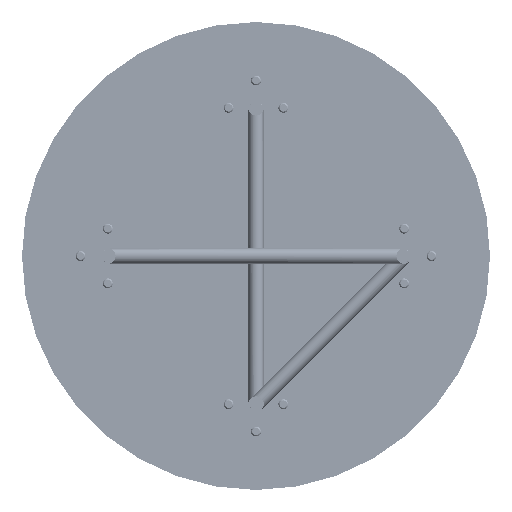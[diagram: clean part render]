
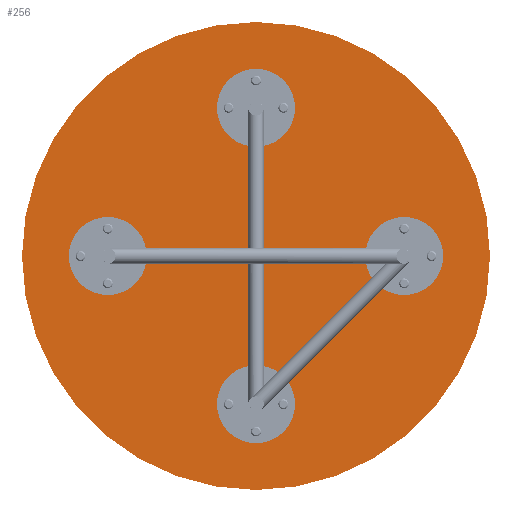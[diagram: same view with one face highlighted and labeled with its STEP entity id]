
A CAD part, front view. The second image highlights one B-rep face of the part: STEP entity #256.
In plain terms, the highlighted planar face has unit normal (0, -1, 0).
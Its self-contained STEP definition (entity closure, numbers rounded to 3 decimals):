
#98 = VERTEX_POINT ( 'NONE', #5888 ) ;
#256 = ADVANCED_FACE ( 'NONE', ( #855, #1403, #2470, #8103, #13720 ), #1129, .F. ) ;
#412 = VERTEX_POINT ( 'NONE', #3896 ) ;
#762 = AXIS2_PLACEMENT_3D ( 'NONE', #10401, #12022, #10760 ) ;
#855 = FACE_BOUND ( 'NONE', #6755, .T. ) ;
#1115 = AXIS2_PLACEMENT_3D ( 'NONE', #11752, #13376, #3646 ) ;
#1129 = PLANE ( 'NONE',  #15644 ) ;
#1209 = ORIENTED_EDGE ( 'NONE', *, *, #1442, .F. ) ;
#1403 = FACE_BOUND ( 'NONE', #9851, .T. ) ;
#1442 = EDGE_CURVE ( 'NONE', #412, #4291, #9403, .T. ) ;
#1542 = DIRECTION ( 'NONE',  ( 0., 0., -1. ) ) ;
#1710 = AXIS2_PLACEMENT_3D ( 'NONE', #13770, #8585, #1542 ) ;
#2275 = DIRECTION ( 'NONE',  ( 0., 1., 0. ) ) ;
#2470 = FACE_BOUND ( 'NONE', #14327, .T. ) ;
#2577 = CARTESIAN_POINT ( 'NONE',  ( 0., 0., 0. ) ) ;
#2609 = CARTESIAN_POINT ( 'NONE',  ( 190., 0., -50. ) ) ;
#2639 = DIRECTION ( 'NONE',  ( 0., 0., -1. ) ) ;
#2659 = CARTESIAN_POINT ( 'NONE',  ( -190., 0., 50. ) ) ;
#2670 = CARTESIAN_POINT ( 'NONE',  ( 0., 0., -190. ) ) ;
#2851 = DIRECTION ( 'NONE',  ( 0., 1., 0. ) ) ;
#3026 = CARTESIAN_POINT ( 'NONE',  ( 0., 0., 0. ) ) ;
#3137 = AXIS2_PLACEMENT_3D ( 'NONE', #2670, #8120, #13558 ) ;
#3508 = VERTEX_POINT ( 'NONE', #2609 ) ;
#3646 = DIRECTION ( 'NONE',  ( 0., 0., -1. ) ) ;
#3896 = CARTESIAN_POINT ( 'NONE',  ( 0., 0., 140. ) ) ;
#4127 = ORIENTED_EDGE ( 'NONE', *, *, #12739, .F. ) ;
#4268 = DIRECTION ( 'NONE',  ( 0., 0., -1. ) ) ;
#4291 = VERTEX_POINT ( 'NONE', #5734 ) ;
#4433 = EDGE_CURVE ( 'NONE', #4291, #412, #4972, .T. ) ;
#4719 = EDGE_CURVE ( 'NONE', #5159, #4963, #14522, .T. ) ;
#4901 = CIRCLE ( 'NONE', #15729, 300. ) ;
#4963 = VERTEX_POINT ( 'NONE', #16902 ) ;
#4972 = CIRCLE ( 'NONE', #1115, 50. ) ;
#5139 = ORIENTED_EDGE ( 'NONE', *, *, #4433, .F. ) ;
#5159 = VERTEX_POINT ( 'NONE', #9221 ) ;
#5544 = ORIENTED_EDGE ( 'NONE', *, *, #15014, .F. ) ;
#5592 = DIRECTION ( 'NONE',  ( 0., -1., 0. ) ) ;
#5734 = CARTESIAN_POINT ( 'NONE',  ( 0., 0., 240. ) ) ;
#5888 = CARTESIAN_POINT ( 'NONE',  ( 190., 0., 50. ) ) ;
#6081 = EDGE_CURVE ( 'NONE', #9540, #11415, #4901, .T. ) ;
#6204 = AXIS2_PLACEMENT_3D ( 'NONE', #10927, #5592, #2639 ) ;
#6256 = DIRECTION ( 'NONE',  ( 0., -1., 0. ) ) ;
#6437 = CIRCLE ( 'NONE', #11544, 300. ) ;
#6574 = CARTESIAN_POINT ( 'NONE',  ( -190., 0., -50. ) ) ;
#6755 = EDGE_LOOP ( 'NONE', ( #17295, #5544 ) ) ;
#7411 = EDGE_CURVE ( 'NONE', #11415, #9540, #6437, .T. ) ;
#7613 = CIRCLE ( 'NONE', #6204, 50. ) ;
#7802 = DIRECTION ( 'NONE',  ( 0., -1., 0. ) ) ;
#7923 = DIRECTION ( 'NONE',  ( 0., 0., 1. ) ) ;
#7942 = AXIS2_PLACEMENT_3D ( 'NONE', #14588, #7802, #11908 ) ;
#8103 = FACE_BOUND ( 'NONE', #17006, .T. ) ;
#8120 = DIRECTION ( 'NONE',  ( 0., -1., 0. ) ) ;
#8196 = DIRECTION ( 'NONE',  ( 0., -1., 0. ) ) ;
#8585 = DIRECTION ( 'NONE',  ( 0., -1., 0. ) ) ;
#9221 = CARTESIAN_POINT ( 'NONE',  ( 0., 0., -240. ) ) ;
#9403 = CIRCLE ( 'NONE', #1710, 50. ) ;
#9529 = CARTESIAN_POINT ( 'NONE',  ( -190., 0., 0. ) ) ;
#9540 = VERTEX_POINT ( 'NONE', #16236 ) ;
#9851 = EDGE_LOOP ( 'NONE', ( #14418, #12176 ) ) ;
#10148 = AXIS2_PLACEMENT_3D ( 'NONE', #14455, #6256, #17043 ) ;
#10401 = CARTESIAN_POINT ( 'NONE',  ( 0., 0., -190. ) ) ;
#10440 = CIRCLE ( 'NONE', #10148, 50. ) ;
#10754 = VERTEX_POINT ( 'NONE', #6574 ) ;
#10760 = DIRECTION ( 'NONE',  ( 0., 0., -1. ) ) ;
#10792 = EDGE_CURVE ( 'NONE', #13841, #10754, #7613, .T. ) ;
#10927 = CARTESIAN_POINT ( 'NONE',  ( -190., 0., 0. ) ) ;
#10937 = DIRECTION ( 'NONE',  ( 0., 1., 0. ) ) ;
#11415 = VERTEX_POINT ( 'NONE', #12874 ) ;
#11544 = AXIS2_PLACEMENT_3D ( 'NONE', #3026, #2275, #13168 ) ;
#11752 = CARTESIAN_POINT ( 'NONE',  ( 0., 0., 190. ) ) ;
#11908 = DIRECTION ( 'NONE',  ( 0., 0., -1. ) ) ;
#12022 = DIRECTION ( 'NONE',  ( 0., -1., 0. ) ) ;
#12176 = ORIENTED_EDGE ( 'NONE', *, *, #12498, .F. ) ;
#12180 = EDGE_CURVE ( 'NONE', #3508, #98, #10440, .T. ) ;
#12218 = DIRECTION ( 'NONE',  ( 0., 0., 1. ) ) ;
#12467 = CIRCLE ( 'NONE', #762, 50. ) ;
#12498 = EDGE_CURVE ( 'NONE', #4963, #5159, #12467, .T. ) ;
#12739 = EDGE_CURVE ( 'NONE', #10754, #13841, #13884, .T. ) ;
#12874 = CARTESIAN_POINT ( 'NONE',  ( 0., 0., -300. ) ) ;
#13168 = DIRECTION ( 'NONE',  ( 0., 0., 1. ) ) ;
#13305 = AXIS2_PLACEMENT_3D ( 'NONE', #9529, #8196, #4268 ) ;
#13376 = DIRECTION ( 'NONE',  ( 0., -1., 0. ) ) ;
#13558 = DIRECTION ( 'NONE',  ( 0., 0., -1. ) ) ;
#13720 = FACE_OUTER_BOUND ( 'NONE', #16436, .T. ) ;
#13770 = CARTESIAN_POINT ( 'NONE',  ( 0., 0., 190. ) ) ;
#13841 = VERTEX_POINT ( 'NONE', #2659 ) ;
#13884 = CIRCLE ( 'NONE', #13305, 50. ) ;
#13892 = ORIENTED_EDGE ( 'NONE', *, *, #7411, .F. ) ;
#14211 = CIRCLE ( 'NONE', #7942, 50. ) ;
#14327 = EDGE_LOOP ( 'NONE', ( #4127, #17428 ) ) ;
#14418 = ORIENTED_EDGE ( 'NONE', *, *, #4719, .F. ) ;
#14455 = CARTESIAN_POINT ( 'NONE',  ( 190., 0., 0. ) ) ;
#14522 = CIRCLE ( 'NONE', #3137, 50. ) ;
#14588 = CARTESIAN_POINT ( 'NONE',  ( 190., 0., 0. ) ) ;
#15014 = EDGE_CURVE ( 'NONE', #98, #3508, #14211, .T. ) ;
#15644 = AXIS2_PLACEMENT_3D ( 'NONE', #17473, #10937, #7923 ) ;
#15729 = AXIS2_PLACEMENT_3D ( 'NONE', #2577, #2851, #12218 ) ;
#16056 = ORIENTED_EDGE ( 'NONE', *, *, #6081, .F. ) ;
#16236 = CARTESIAN_POINT ( 'NONE',  ( 0., 0., 300. ) ) ;
#16436 = EDGE_LOOP ( 'NONE', ( #13892, #16056 ) ) ;
#16902 = CARTESIAN_POINT ( 'NONE',  ( 0., 0., -140. ) ) ;
#17006 = EDGE_LOOP ( 'NONE', ( #1209, #5139 ) ) ;
#17043 = DIRECTION ( 'NONE',  ( 0., 0., -1. ) ) ;
#17295 = ORIENTED_EDGE ( 'NONE', *, *, #12180, .F. ) ;
#17428 = ORIENTED_EDGE ( 'NONE', *, *, #10792, .F. ) ;
#17473 = CARTESIAN_POINT ( 'NONE',  ( 0., 0., 0. ) ) ;
